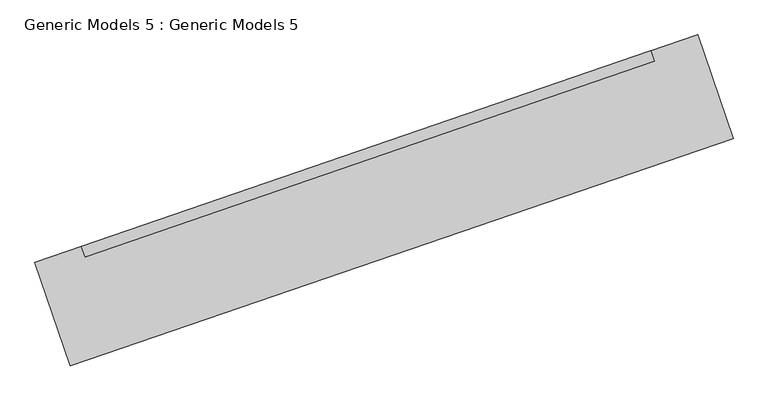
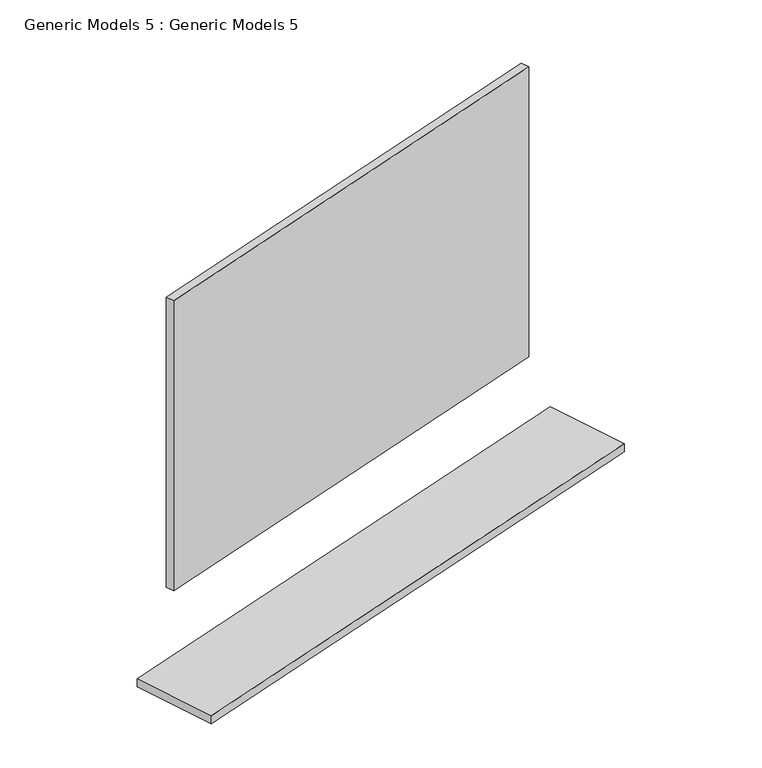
"""IFC4 building model written with IfcOpenShell, lengths in millimetres: proxy geometry, Generic Models 5 : Generic Models 5."""

from ifc_helpers import new_model, si_unit, frame, origin, origin_with_axes, place, context, project, spatial, polyline, outline, extrude, source, transform, mapped, element, save


def generic_models_5_generic_models_5_6d1e31e7(model_context):
    return source(origin(), model_context, "Body", "SweptSolid", [
        extrude(outline(polyline([(-4710.4417071, 8578.8856632), (-3389.3175278, 9033.0220998), (-3381.0605017, 9009.0016602), (-4702.1846809, 8554.8652236), (-4710.4417071, 8578.8856632)])), frame((0.0, 0.0, 254.0), z_axis=(0.0, 0.0, 1.0), x_axis=(1.0, 0.0, 0.0)), (0.0, 0.0, 1.0), 914.4),
        extrude(outline(polyline([(-3281.2137633, 9070.1827689), (-3198.6435021, 8829.9783726), (-4735.951638, 8301.5287009), (-4818.5218992, 8541.7330972), (-3281.2137633, 9070.1827689)])), origin_with_axes(), (0.0, 0.0, 1.0), 25.4),
    ])


if __name__ == "__main__":
    model = new_model("IFC4")
    model_context = context("Model", 3, world=origin())
    ifc_project = project(units=[si_unit("LENGTHUNIT", "METRE", prefix="MILLI")], contexts=[model_context])
    site = spatial("IfcSite", under=ifc_project)
    building = spatial("IfcBuilding", under=site)
    placement = place(None, origin())
    generic_models_5_generic_models_5_shape = generic_models_5_generic_models_5_6d1e31e7(model_context)
    element("IfcBuildingElementProxy", 1, Name="Generic Models 5 : Generic Models 5", ObjectType="Generic Models 5 : Generic Models 5", at=placement, inside=building, context=model_context, shape_type="MappedRepresentation", body=[
        mapped(generic_models_5_generic_models_5_shape, transform((0.0, 0.0, 0.0), x_axis=(1.0, 0.0, 0.0), y_axis=(0.0, 1.0, 0.0), z_axis=(0.0, 0.0, 1.0))),
    ])
    save(model, "model.ifc")
